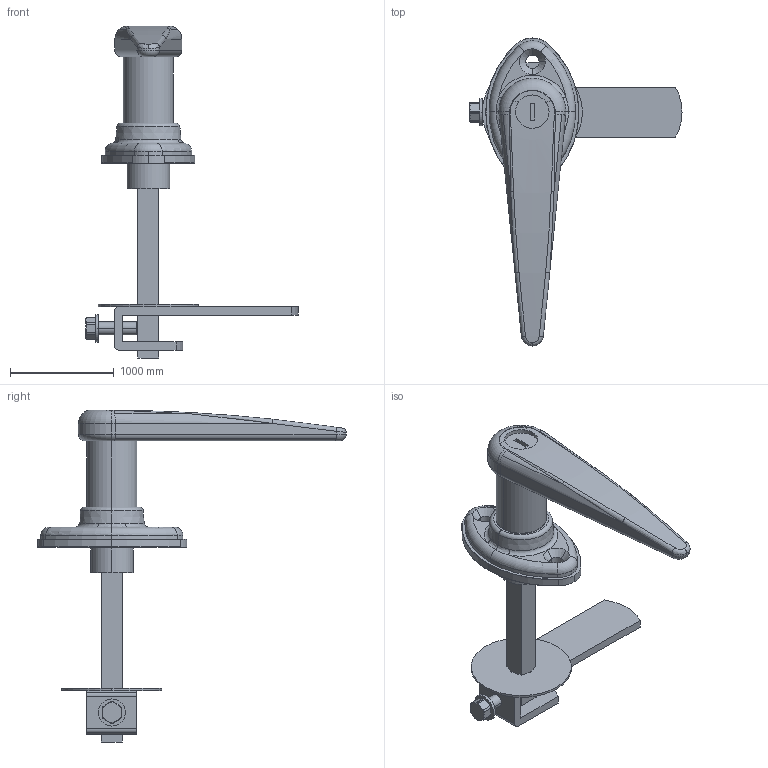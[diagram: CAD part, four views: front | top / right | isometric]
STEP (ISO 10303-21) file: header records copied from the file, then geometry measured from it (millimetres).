
FILE_DESCRIPTION (( 'STEP AP203' ), '1' );
FILE_NAME ('DELLUXE LOOKING HANDLE.STEP', '2012-05-29T21:14:21', ( '' ), ( '' ), 'SwSTEP 2.0', 'SolidWorks 2010', '' );
FILE_SCHEMA (( 'CONFIG_CONTROL_DESIGN' ));
Length unit declared in the file: millimetre
Products named in the file (7): DELLUXE LOOKING HANDLE; 8020-40-2063-DEFAULT_20555; 8020-40-2063-DEFAULT_20554; 8020-40-2063-DEFAULT_20553; 8020-40-2063-DEFAULT_20552; 8020-40-2063-DEFAULT_20556; 8020-40-2063-DEFAULT_20631
Assembly tree (6 placements, depth 2):
  DELLUXE LOOKING HANDLE
    8020-40-2063-DEFAULT_20553
    8020-40-2063-DEFAULT_20552
    8020-40-2063-DEFAULT_20556
    8020-40-2063-DEFAULT_20555
    8020-40-2063-DEFAULT_20554
    8020-40-2063-DEFAULT_20631
Bounding box: 2044.04 x 2970.88 x 3199.77 mm (x, y, z)
Volume: 777867119.6 mm3; surface area: 15289811.3 mm2
Topology: 6 solids, 6 shells, 202 faces, 496 edges, 312 vertices
Faces by surface type: cylinder 85, plane 52, torus 31, cone 17, bspline 17
Entity records: 15281 total; most frequent: CARTESIAN_POINT 9720, DIRECTION 1058, ORIENTED_EDGE 992, EDGE_CURVE 496, AXIS2_PLACEMENT_3D 440, VERTEX_POINT 312, CIRCLE 246, EDGE_LOOP 226
